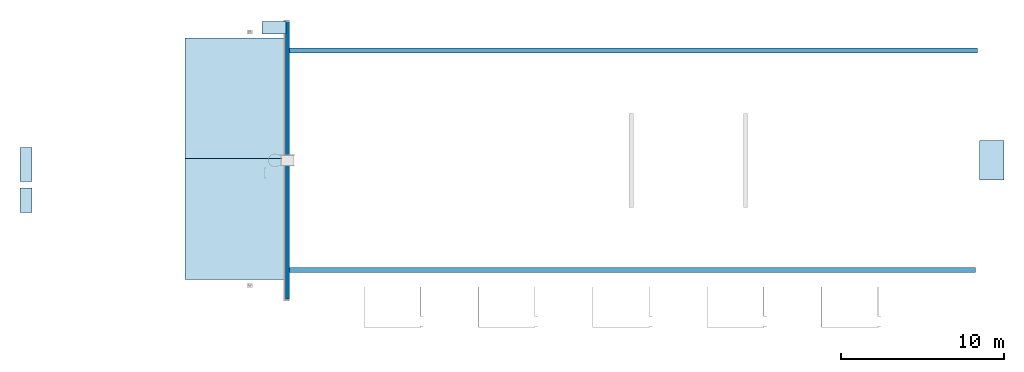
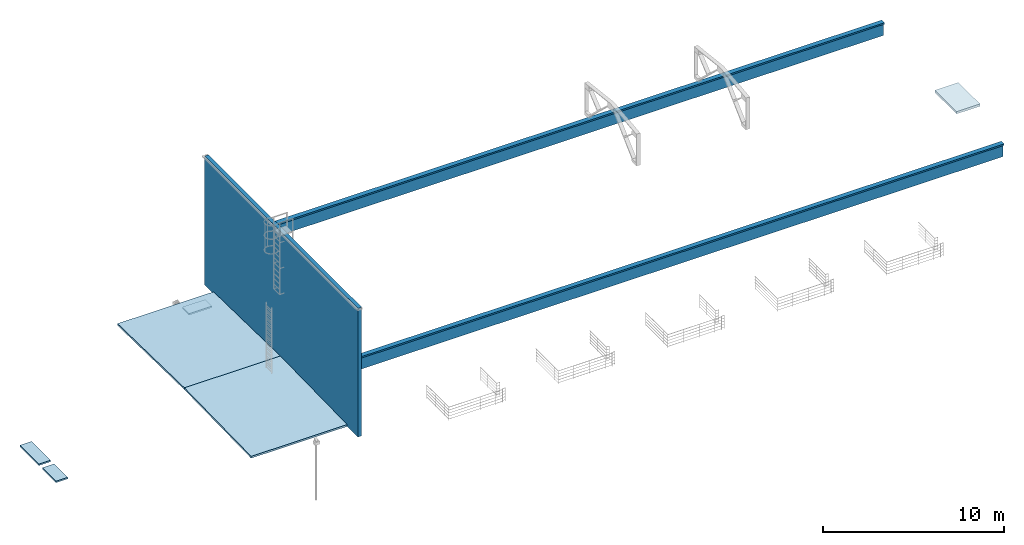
# One storey, part 1 of 6: 6 slabs, 2 beams, 1 wall, 1 element without a shape of its own.
"""IFC2X3 building model written with IfcOpenShell, lengths in millimetres."""

from ifc_helpers import new_model, entity, si_unit, converted_unit, derived_unit, direction, frame, frame_2d, origin, origin_2d_with_axis, place, context, subcontext, project, spatial, polyline, rectangle, outline, extrude, material, layer, layer_set, layer_usage, type_object, element, aggregate, save


model = new_model("IFC2X3")

# Units and contexts
model_context = context("Model", 3, precision=0.01, world=origin(), true_north=direction((6.12303176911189e-17, 1.0)))
body_context = subcontext(model_context, "Body", "Model", "MODEL_VIEW")
ifc_project = project(units=[si_unit("LENGTHUNIT", "METRE", prefix="MILLI"), si_unit("AREAUNIT", "SQUARE_METRE"), si_unit("VOLUMEUNIT", "CUBIC_METRE"), converted_unit("PLANEANGLEUNIT", "DEGREE", entity("IfcRatioMeasure", 0.0174532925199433), si_unit("PLANEANGLEUNIT", "RADIAN"), dimensions=[0, 0, 0, 0, 0, 0, 0]), si_unit("MASSUNIT", "GRAM", prefix="KILO"), derived_unit("MASSDENSITYUNIT", [(si_unit("MASSUNIT", "GRAM", prefix="KILO"), 1), (si_unit("LENGTHUNIT", "METRE"), -3)]), si_unit("TIMEUNIT", "SECOND"), si_unit("FREQUENCYUNIT", "HERTZ"), si_unit("THERMODYNAMICTEMPERATUREUNIT", "DEGREE_CELSIUS"), derived_unit("THERMALTRANSMITTANCEUNIT", [(si_unit("MASSUNIT", "GRAM", prefix="KILO"), 1), (si_unit("THERMODYNAMICTEMPERATUREUNIT", "KELVIN"), -1), (si_unit("TIMEUNIT", "SECOND"), -3)]), derived_unit("VOLUMETRICFLOWRATEUNIT", [(si_unit("LENGTHUNIT", "METRE"), 3), (si_unit("TIMEUNIT", "SECOND"), -1)]), si_unit("ELECTRICCURRENTUNIT", "AMPERE"), si_unit("ELECTRICVOLTAGEUNIT", "VOLT"), si_unit("POWERUNIT", "WATT"), si_unit("FORCEUNIT", "NEWTON", prefix="KILO"), si_unit("ILLUMINANCEUNIT", "LUX"), si_unit("LUMINOUSFLUXUNIT", "LUMEN"), si_unit("LUMINOUSINTENSITYUNIT", "CANDELA"), derived_unit("USERDEFINED", [(si_unit("MASSUNIT", "GRAM", prefix="KILO"), -1), (si_unit("LENGTHUNIT", "METRE"), -2), (si_unit("TIMEUNIT", "SECOND"), 3), (si_unit("LUMINOUSFLUXUNIT", "LUMEN"), 1)]), derived_unit("LINEARVELOCITYUNIT", [(si_unit("LENGTHUNIT", "METRE"), 1), (si_unit("TIMEUNIT", "SECOND"), -1)]), si_unit("PRESSUREUNIT", "PASCAL"), derived_unit("USERDEFINED", [(si_unit("LENGTHUNIT", "METRE"), -2), (si_unit("MASSUNIT", "GRAM", prefix="KILO"), 1), (si_unit("TIMEUNIT", "SECOND"), -2)])], contexts=[model_context])

# Site, building, storey
site_placement = place(None, origin())
site = spatial("IfcSite", under=ifc_project, at=site_placement, Name="表面", CompositionType="ELEMENT")
building_placement = place(site_placement, origin())
building = spatial("IfcBuilding", under=site, at=building_placement, CompositionType="ELEMENT")
storey_placement = place(building_placement, frame((0.0, 0.0, 3300.0)))
storey = spatial("IfcBuildingStorey", under=building, at=storey_placement, Name="3.3000", CompositionType="ELEMENT", Elevation=3300.0)

# Beams
beam_type = type_object("IfcBeamType", Name="T型轨道:T型轨道", PredefinedType="BEAM")
beam_1_placement = place(storey_placement, frame((-32027.7987814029, 1389.69740738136, 3140.0)))
element("IfcBeam", 1, at=beam_1_placement, inside=storey, type_object=beam_type, Name="T型轨道:T型轨道", ObjectType="T型轨道:T型轨道", context=body_context, shape_type="SweptSolid", body=[
    extrude(outline(polyline([(-277.500000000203, -150.0), (-177.500000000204, -150.0), (-177.500000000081, -60.0), (632.499999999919, -60.0), (632.500000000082, 60.0), (-177.499999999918, 60.0), (-177.499999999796, 150.0), (-277.499999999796, 150.0), (-277.500000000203, -150.0)])), frame((0.0, 0.0, 632.5), z_axis=(1.0, 0.0, 0.0), x_axis=(0.0, 0.0, -1.0)), (0.0, 0.0, 1.0), 41999.0),
])
beam_2_placement = place(storey_placement, frame((-32028.7987814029, 14829.6974073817, 3140.0)))
element("IfcBeam", 2, at=beam_2_placement, inside=storey, type_object=beam_type, Name="T型轨道:T型轨道", ObjectType="T型轨道:T型轨道", context=body_context, shape_type="SweptSolid", body=[
    extrude(outline(polyline([(-277.499999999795, -150.0), (-177.499999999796, -150.0), (-177.499999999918, -60.0), (632.500000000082, -60.0), (632.499999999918, 60.0), (-177.500000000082, 60.0), (-177.500000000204, 150.0), (-277.500000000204, 150.0), (-277.499999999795, -150.0)])), frame((0.0, 0.0, 632.499999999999), z_axis=(1.0, 0.0, 0.0), x_axis=(0.0, 0.0, -1.0)), (0.0, 0.0, 1.0), 42120.0),
])

# Roof, slabs
roof_placement = place(storey_placement, frame((-38408.798781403, 809.697407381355, 0.0)))
roof = element("IfcRoof", 3, at=roof_placement, inside=storey, Name="基本屋顶:常规 - 125mm", ObjectType="基本屋顶:常规 - 125mm", ShapeType="NOTDEFINED")
ifc_material_1 = material(Name="彩钢-蓝")
ifc_layer_1 = layer(ifc_material_1, 125.0)
ifc_layer_set_1 = layer_set([ifc_layer_1], Name="基本屋顶:常规 - 125mm")
slab_1_placement = place(roof_placement, origin())
slab_1 = element("IfcSlab", 4, at=slab_1_placement, material=ifc_layer_set_1, Name="基本屋顶:常规 - 125mm", ObjectType="基本屋顶:常规 - 125mm", PredefinedType="ROOF", context=body_context, shape_type="SweptSolid", body=[
    extrude(rectangle(XDim=7401.49081943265, YDim=6140.0, at=frame_2d((-2.04636307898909e-12, -5.45696821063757e-12), x_axis=(0.0, -1.0))), frame((3070.0, 11100.0, 74.2737338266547), z_axis=(0.0, 0.020069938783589, 0.9997985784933), x_axis=(1.0, 0.0, 0.0)), (0.0, -0.020069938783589, 0.9997985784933), 125.025182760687),
])
slab_2_placement = place(roof_placement, origin())
slab_2 = element("IfcSlab", 5, at=slab_2_placement, material=ifc_layer_set_1, Name="基本屋顶:常规 - 125mm", ObjectType="基本屋顶:常规 - 125mm", PredefinedType="ROOF", context=body_context, shape_type="SweptSolid", body=[
    extrude(rectangle(XDim=7401.49081943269, YDim=6140.0, at=frame_2d((-2.04636307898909e-12, 5.45696821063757e-12), x_axis=(0.0, 1.0))), frame((3070.0, 3700.0, 74.2737338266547), z_axis=(0.0, -0.020069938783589, 0.9997985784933), x_axis=(1.0, 0.0, 0.0)), (0.0, 0.020069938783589, 0.9997985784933), 125.025182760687),
])
aggregate(roof, [slab_1, slab_2])

# Slabs
ifc_material_2 = material(Name="C_砼-沙/水泥找平")
ifc_layer_2 = layer(ifc_material_2, 20.0)
ifc_material_3 = material(Name="C_混凝土 - 钢筋混凝土 - 密集")
ifc_layer_3 = layer(ifc_material_3, 80.0)
ifc_layer_set_2 = layer_set([ifc_layer_2, ifc_layer_3], Name="楼板:室外雨篷")
ifc_layer_usage_1 = layer_usage(ifc_layer_set_2, "AXIS3", "POSITIVE", 0.0)
slab_3_placement = place(storey_placement, origin())
element("IfcSlab", 6, at=slab_3_placement, inside=storey, material=ifc_layer_usage_1, Name="楼板:室外雨篷", ObjectType="楼板:室外雨篷", PredefinedType="FLOOR", context=body_context, shape_type="SweptSolid", body=[
    extrude(rectangle(XDim=745.0, YDim=1450.0, at=origin_2d_with_axis()), frame((-32966.9867985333, 16222.1974073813, -1000.0), z_axis=(0.0, 0.0, -1.0), x_axis=(0.0, 1.0, 0.0)), (0.0, 0.0, 1.0), 100.0),
])
ifc_layer_usage_2 = layer_usage(ifc_layer_set_2, "AXIS3", "POSITIVE", 0.0)
slab_4_placement = place(storey_placement, origin())
element("IfcSlab", 7, at=slab_4_placement, inside=storey, material=ifc_layer_usage_2, Name="楼板:室外雨篷", ObjectType="楼板:室外雨篷", PredefinedType="FLOOR", context=body_context, shape_type="SweptSolid", body=[
    extrude(rectangle(XDim=2100.0, YDim=745.000000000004, at=frame_2d((5.6843418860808e-13, 0.0), x_axis=(1.0, 0.0))), frame((-48141.2987814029, 7859.69740738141, -500.0), z_axis=(0.0, 0.0, -1.0), x_axis=(0.0, 1.0, 0.0)), (0.0, 0.0, 1.0), 100.0),
])
ifc_layer_usage_3 = layer_usage(ifc_layer_set_2, "AXIS3", "POSITIVE", 0.0)
slab_5_placement = place(storey_placement, origin())
element("IfcSlab", 8, at=slab_5_placement, inside=storey, material=ifc_layer_usage_3, Name="楼板:室外雨篷", ObjectType="楼板:室外雨篷", PredefinedType="FLOOR", context=body_context, shape_type="SweptSolid", body=[
    extrude(rectangle(XDim=1500.0, YDim=745.000000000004, at=frame_2d((-5.11590769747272e-13, 0.0), x_axis=(1.0, 0.0))), frame((-48141.2987814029, 5659.69740738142, -500.0), z_axis=(0.0, 0.0, -1.0), x_axis=(0.0, 1.0, 0.0)), (0.0, 0.0, 1.0), 100.0),
])
ifc_material_4 = material(Name="C_保温-聚苯")
ifc_layer_4 = layer(ifc_material_4, 30.0)
ifc_material_5 = material(Name="C_混凝土 - 轻集料混凝土 - 密集")
ifc_layer_5 = layer(ifc_material_5, 120.0)
ifc_layer_set_3 = layer_set([ifc_layer_4, ifc_layer_5], Name="楼板:C 150 - 平台 30+120")
ifc_layer_usage_4 = layer_usage(ifc_layer_set_3, "AXIS3", "POSITIVE", 0.0)
slab_6_placement = place(storey_placement, origin())
element("IfcSlab", 9, at=slab_6_placement, inside=storey, material=ifc_layer_usage_4, Name="楼板:C 150 - 平台 30+120", ObjectType="楼板:C 150 - 平台 30+120", PredefinedType="FLOOR", context=body_context, shape_type="SweptSolid", body=[
    extrude(rectangle(XDim=2400.0, YDim=1500.0, at=frame_2d((0.0, -1.08002495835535e-12), x_axis=(1.0, 0.0))), frame((10961.201218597, 8109.69740738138, 2700.0), z_axis=(0.0, 0.0, -1.0), x_axis=(0.0, 1.0, 0.0)), (0.0, 0.0, 1.0), 149.999999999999),
])

# Wall
ifc_material_6 = material(Name="砖石建筑 - 砖")
ifc_layer_6 = layer(ifc_material_6, 240.0)
ifc_layer_set_4 = layer_set([ifc_layer_6], Name="基本墙:砖墙240mm")
ifc_layer_usage_5 = layer_usage(ifc_layer_set_4, "AXIS2", "NEGATIVE", 120.0)
wall_type = type_object("IfcWallType", Name="基本墙:砖墙240mm", PredefinedType="STANDARD", material=ifc_layer_set_4)
wall_placement = place(storey_placement, frame((-32148.798781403, -380.302592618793, 0.0), z_axis=(0.0, 0.0, 1.0), x_axis=(0.0, 1.0, 0.0)))
element("IfcWallStandardCase", 10, at=wall_placement, inside=storey, type_object=wall_type, material=ifc_layer_usage_5, Name="基本墙:砖墙240mm", ObjectType="基本墙:砖墙240mm", context=body_context, shape_type="SweptSolid", body=[
    extrude(rectangle(XDim=16980.0000000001, YDim=239.999999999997, at=frame_2d((8490.00000000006, 1.47792889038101e-12), x_axis=(-1.0, 0.0))), origin(), (0.0, 0.0, 1.0), 8700.0),
])

save(model, "model.ifc")
